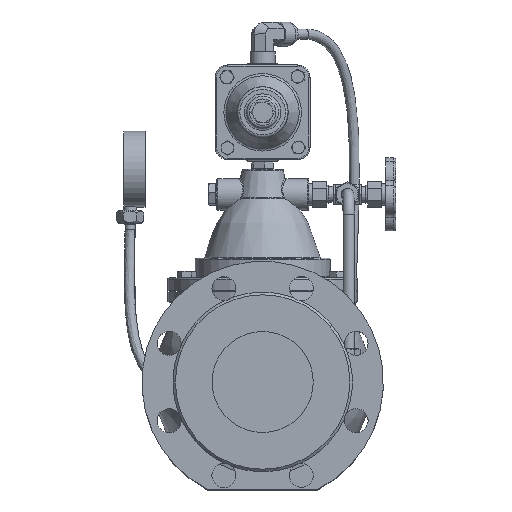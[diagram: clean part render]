
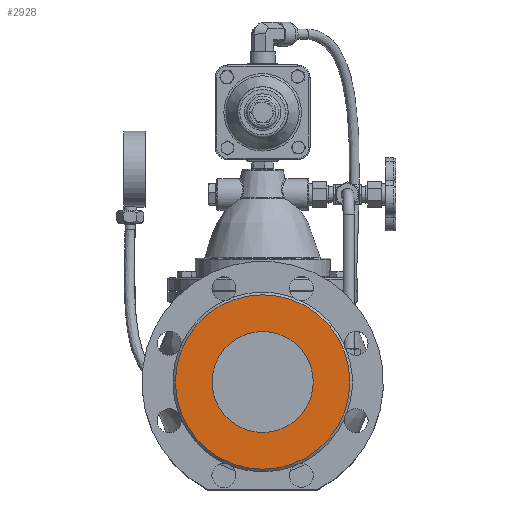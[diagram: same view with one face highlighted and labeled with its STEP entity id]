
A CAD part, top view. The second image highlights one B-rep face of the part: STEP entity #2928.
In plain terms, the highlighted planar face has unit normal (0, 0, 1).
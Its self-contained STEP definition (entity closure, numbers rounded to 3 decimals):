
#2928=ADVANCED_FACE('',(#16970,#16972),#16974,.F.);
#16970=FACE_BOUND('',#16971,.T.);
#16971=EDGE_LOOP('',(#36798));
#16972=FACE_BOUND('',#16973,.T.);
#16973=EDGE_LOOP('',(#36799));
#16974=PLANE('',#16975);
#16975=AXIS2_PLACEMENT_3D('',#16976,#16977,#16978);
#16976=CARTESIAN_POINT('',(0.,0.,125.5));
#16977=DIRECTION('',(0.,0.,-1.));
#16978=DIRECTION('',(0.,1.,0.));
#36798=ORIENTED_EDGE('',*,*,#45940,.T.);
#36799=ORIENTED_EDGE('',*,*,#45984,.T.);
#45940=EDGE_CURVE('',#50174,#50174,#50175,.T.);
#45984=EDGE_CURVE('',#50250,#50250,#50251,.F.);
#50174=VERTEX_POINT('',#70183);
#50175=CIRCLE('',#70184,69.);
#50250=VERTEX_POINT('',#70375);
#50251=CIRCLE('',#70376,40.);
#70183=CARTESIAN_POINT('',(0.,69.,125.5));
#70184=AXIS2_PLACEMENT_3D('',#70185,#70186,#70187);
#70185=CARTESIAN_POINT('',(0.,0.,125.5));
#70186=DIRECTION('',(0.,0.,1.));
#70187=DIRECTION('',(0.,1.,0.));
#70375=CARTESIAN_POINT('',(40.,0.,125.5));
#70376=AXIS2_PLACEMENT_3D('',#70377,#70378,#70379);
#70377=CARTESIAN_POINT('',(0.,0.,125.5));
#70378=DIRECTION('',(0.,0.,1.));
#70379=DIRECTION('',(1.,0.,0.));
